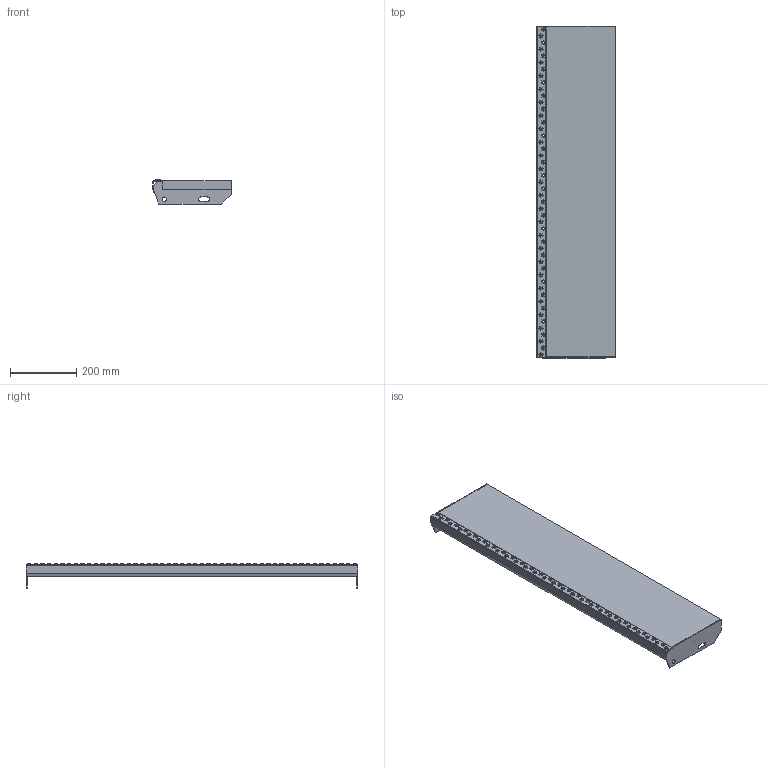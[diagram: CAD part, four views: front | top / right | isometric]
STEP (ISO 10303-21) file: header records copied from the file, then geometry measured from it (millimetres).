
FILE_DESCRIPTION(('Open CASCADE Model'),'2;1');
FILE_NAME('Open CASCADE Shape Model','2019-03-13T09:54:02',('Author'),( 'Open CASCADE'),'Open CASCADE STEP processor 7.2','Open CASCADE 7.2' ,'Unknown');
FILE_SCHEMA(('AUTOMOTIVE_DESIGN { 1 0 10303 214 1 1 1 1 }'));
Length unit declared in the file: millimetre
Products named in the file (1570): Open CASCADE STEP translator 7.2 1; Open CASCADE STEP translator 7.2 2; Open CASCADE STEP translator 7.2 3; Open CASCADE STEP translator 7.2 3.1; Open CASCADE STEP translator 7.2 3.2; Open CASCADE STEP translator 7.2 3.3; Open CASCADE STEP translator 7.2 3.4; Open CASCADE STEP translator 7.2 3.5; Open CASCADE STEP translator 7.2 3.6; Open CASCADE STEP translator 7.2 3.7; Open CASCADE STEP translator 7.2 3.8; Open CASCADE STEP translator 7.2 3.9; Open CASCADE STEP translator 7.2 3.10; Open CASCADE STEP translator 7.2 3.11; Open CASCADE STEP translator 7.2 3.12; Open CASCADE STEP translator 7.2 3.13; Open CASCADE STEP translator 7.2 3.14; Open CASCADE STEP translator 7.2 3.15; Open CASCADE STEP translator 7.2 3.16; Open CASCADE STEP translator 7.2 3.17; Open CASCADE STEP translator 7.2 3.18; Open CASCADE STEP translator 7.2 3.19; Open CASCADE STEP translator 7.2 3.20; Open CASCADE STEP translator 7.2 3.21; Open CASCADE STEP translator 7.2 3.22; Open CASCADE STEP translator 7.2 3.23; Open CASCADE STEP translator 7.2 3.24; Open CASCADE STEP translator 7.2 3.25; Open CASCADE STEP translator 7.2 3.26; Open CASCADE STEP translator 7.2 3.27; Open CASCADE STEP translator 7.2 3.28; Open CASCADE STEP translator 7.2 3.29; Open CASCADE STEP translator 7.2 3.30; Open CASCADE STEP translator 7.2 3.31; Open CASCADE STEP translator 7.2 3.32; Open CASCADE STEP translator 7.2 3.33; Open CASCADE STEP translator 7.2 3.34; Open CASCADE STEP translator 7.2 3.35; Open CASCADE STEP translator 7.2 3.36; Open CASCADE STEP translator 7.2 3.37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
Assembly tree (1566 placements, depth 2):
  Open CASCADE STEP translator 7.2 1
  Open CASCADE STEP translator 7.2 2
  Open CASCADE STEP translator 7.2 3
    Open CASCADE STEP translator 7.2 3.1
    Open CASCADE STEP translator 7.2 3.2
    Open CASCADE STEP translator 7.2 3.3
    Open CASCADE STEP translator 7.2 3.4
    Open CASCADE STEP translator 7.2 3.5
    Open CASCADE STEP translator 7.2 3.6
    Open CASCADE STEP translator 7.2 3.7
    Open CASCADE STEP translator 7.2 3.8
    Open CASCADE STEP translator 7.2 3.9
    Open CASCADE STEP translator 7.2 3.10
    Open CASCADE STEP translator 7.2 3.11
    Open CASCADE STEP translator 7.2 3.12
    Open CASCADE STEP translator 7.2 3.13
    Open CASCADE STEP translator 7.2 3.14
    Open CASCADE STEP translator 7.2 3.15
    Open CASCADE STEP translator 7.2 3.16
    Open CASCADE STEP translator 7.2 3.17
    Open CASCADE STEP translator 7.2 3.18
    Open CASCADE STEP translator 7.2 3.19
    Open CASCADE STEP translator 7.2 3.20
    Open CASCADE STEP translator 7.2 3.21
    Open CASCADE STEP translator 7.2 3.22
    Open CASCADE STEP translator 7.2 3.23
    Open CASCADE STEP translator 7.2 3.24
    Open CASCADE STEP translator 7.2 3.25
    Open CASCADE STEP translator 7.2 3.26
    Open CASCADE STEP translator 7.2 3.27
    Open CASCADE STEP translator 7.2 3.28
    Open CASCADE STEP translator 7.2 3.29
    Open CASCADE STEP translator 7.2 3.30
    Open CASCADE STEP translator 7.2 3.31
    Open CASCADE STEP translator 7.2 3.32
    Open CASCADE STEP translator 7.2 3.33
    Open CASCADE STEP translator 7.2 3.34
    Open CASCADE STEP translator 7.2 3.35
    Open CASCADE STEP translator 7.2 3.36
    Open CASCADE STEP translator 7.2 3.37
    Open CASCADE STEP translator 7.2 3.38
    Open CASCADE STEP translator 7.2 3.39
    Open CASCADE STEP translator 7.2 3.40
    Open CASCADE STEP translator 7.2 3.41
    Open CASCADE STEP translator 7.2 3.42
    Open CASCADE STEP translator 7.2 3.43
    Open CASCADE STEP translator 7.2 3.44
    Open CASCADE STEP translator 7.2 3.45
    Open CASCADE STEP translator 7.2 3.46
    Open CASCADE STEP translator 7.2 3.47
    Open CASCADE STEP translator 7.2 3.48
    Open CASCADE STEP translator 7.2 3.49
    Open CASCADE STEP translator 7.2 3.50
    Open CASCADE STEP translator 7.2 3.51
    Open CASCADE STEP translator 7.2 3.52
    Open CASCADE STEP translator 7.2 3.53
    Open CASCADE STEP translator 7.2 3.54
    Open CASCADE STEP translator 7.2 3.55
    Open CASCADE STEP translator 7.2 3.56
    Open CASCADE STEP translator 7.2 3.57
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Bounding box: 237 x 1000 x 73 mm (x, y, z)
Volume: 5246171.2 mm3; surface area: 667358.4 mm2
Topology: 3 solids, 1569 shells, 1604 faces, 8580 edges, 8548 vertices
Faces by surface type: plane 1598, cylinder 6
Full cylindrical faces by diameter (mm): 13 x2
Entity records: 174052 total; most frequent: CARTESIAN_POINT 29071, DIRECTION 23574, LINE 17208, VECTOR 17208, ORIENTED_EDGE 8676, PCURVE 8676, DEFINITIONAL_REPRESENTATION 8676, EDGE_CURVE 8580
